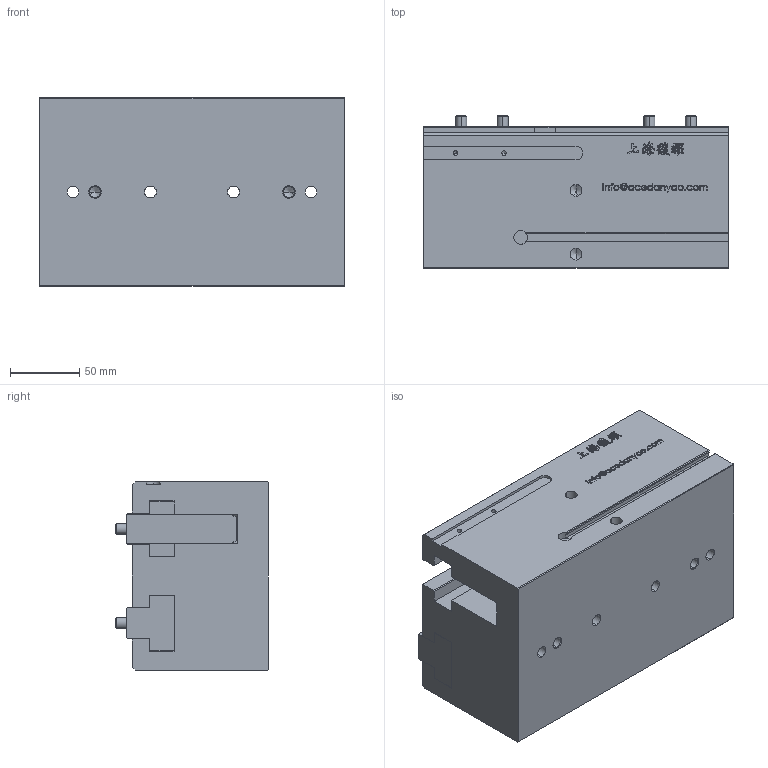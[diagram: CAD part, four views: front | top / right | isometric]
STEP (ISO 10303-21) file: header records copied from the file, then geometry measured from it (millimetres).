
FILE_DESCRIPTION (( 'STEP AP203' ), '1' );
FILE_NAME ('GPL60-80-原始檔-組合-W106.04.18.STEP', '2017-04-18T01:26:24', ( 'DanyaoCAD' ), ( '' ), 'SwSTEP 2.0', 'SolidWorks 2016', '' );
FILE_SCHEMA (( 'CONFIG_CONTROL_DESIGN' ));
Length unit declared in the file: millimetre
Products named in the file (3): Griffa; Corpo; GPL60-80-原始檔-組合-W106.04.18
Assembly tree (3 placements, depth 2):
  GPL60-80-原始檔-組合-W106.04.18
    Griffa  x2
    Corpo
Bounding box: 220 x 110 x 136 mm (x, y, z)
Volume: 2574123.8 mm3; surface area: 254120.6 mm2
Topology: 3 solids, 3 shells, 995 faces, 2775 edges, 1830 vertices
Faces by surface type: bspline 640, plane 263, cylinder 56, cone 36
Entity records: 46726 total; most frequent: CARTESIAN_POINT 26466, ORIENTED_EDGE 5262, EDGE_CURVE 2631, DIRECTION 2081, VERTEX_POINT 1751, B_SPLINE_CURVE_WITH_KNOTS 1280, VECTOR 1237, LINE 1237
